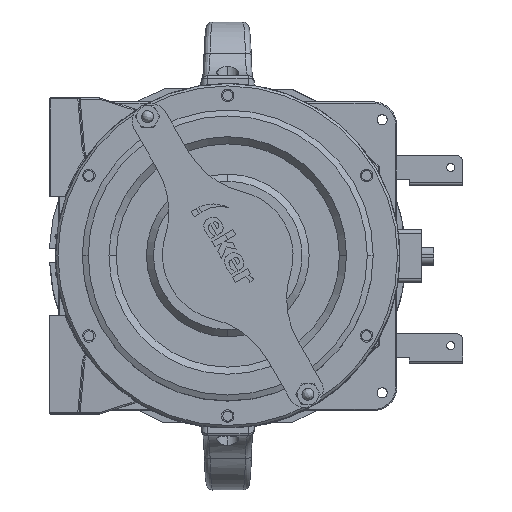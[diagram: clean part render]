
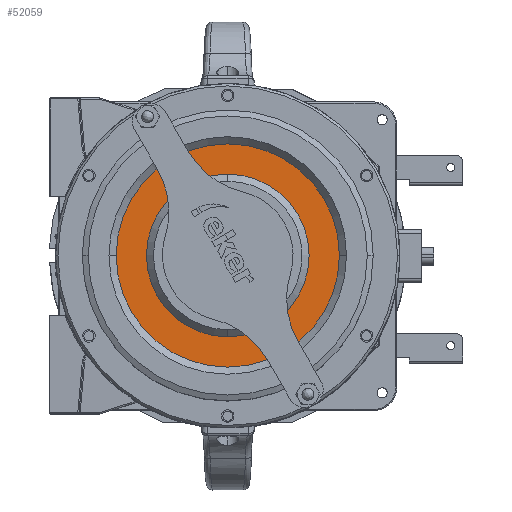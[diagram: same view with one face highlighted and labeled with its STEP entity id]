
A CAD part, top view. The second image highlights one B-rep face of the part: STEP entity #52059.
In plain terms, the highlighted planar face has unit normal (0, 0, 1).
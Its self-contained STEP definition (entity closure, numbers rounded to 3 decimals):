
#2695 = CARTESIAN_POINT ( 'NONE',  ( -50.22, -30.558, 244.5 ) ) ;
#7134 = CIRCLE ( 'NONE', #141521, 94. ) ;
#12548 = DIRECTION ( 'NONE',  ( 1., 0., 0. ) ) ;
#13853 = CIRCLE ( 'NONE', #53048, 94. ) ;
#15901 = EDGE_CURVE ( 'NONE', #98892, #54894, #114102, .T. ) ;
#18450 = CARTESIAN_POINT ( 'NONE',  ( 43.78, 37.942, 244.5 ) ) ;
#22544 = EDGE_CURVE ( 'NONE', #54894, #98892, #131746, .T. ) ;
#26794 = CARTESIAN_POINT ( 'NONE',  ( -50.22, 37.942, 244.5 ) ) ;
#26839 = DIRECTION ( 'NONE',  ( 0., 0., 1. ) ) ;
#30840 = EDGE_CURVE ( 'NONE', #110757, #86161, #13853, .T. ) ;
#33008 = DIRECTION ( 'NONE',  ( 0., 0., -1. ) ) ;
#48087 = AXIS2_PLACEMENT_3D ( 'NONE', #66772, #33008, #68287 ) ;
#49115 = FACE_BOUND ( 'NONE', #90554, .T. ) ;
#52059 = ADVANCED_FACE ( 'NONE', ( #49115, #95796 ), #82025, .T. ) ;
#52778 = ORIENTED_EDGE ( 'NONE', *, *, #15901, .T. ) ;
#53042 = EDGE_CURVE ( 'NONE', #86161, #110757, #7134, .T. ) ;
#53048 = AXIS2_PLACEMENT_3D ( 'NONE', #74371, #87364, #121052 ) ;
#54894 = VERTEX_POINT ( 'NONE', #148064 ) ;
#56289 = DIRECTION ( 'NONE',  ( 0., 0., 1. ) ) ;
#62037 = DIRECTION ( 'NONE',  ( 0., 0., -1. ) ) ;
#63295 = ORIENTED_EDGE ( 'NONE', *, *, #53042, .T. ) ;
#66772 = CARTESIAN_POINT ( 'NONE',  ( -50.22, 37.942, 244.5 ) ) ;
#68287 = DIRECTION ( 'NONE',  ( 0., 1., 0. ) ) ;
#74371 = CARTESIAN_POINT ( 'NONE',  ( -50.22, 37.942, 244.5 ) ) ;
#75063 = DIRECTION ( 'NONE',  ( 0., -1., 0. ) ) ;
#82025 = PLANE ( 'NONE',  #89990 ) ;
#86161 = VERTEX_POINT ( 'NONE', #147334 ) ;
#86503 = DIRECTION ( 'NONE',  ( 0., 1., 0. ) ) ;
#87309 = CARTESIAN_POINT ( 'NONE',  ( -50.22, 37.942, 244.5 ) ) ;
#87364 = DIRECTION ( 'NONE',  ( 0., 0., 1. ) ) ;
#89990 = AXIS2_PLACEMENT_3D ( 'NONE', #87309, #26839, #75063 ) ;
#90554 = EDGE_LOOP ( 'NONE', ( #119867, #52778 ) ) ;
#91491 = CARTESIAN_POINT ( 'NONE',  ( -50.22, 37.942, 244.5 ) ) ;
#95796 = FACE_OUTER_BOUND ( 'NONE', #127627, .T. ) ;
#98892 = VERTEX_POINT ( 'NONE', #2695 ) ;
#110757 = VERTEX_POINT ( 'NONE', #18450 ) ;
#114102 = CIRCLE ( 'NONE', #48087, 68.5 ) ;
#119867 = ORIENTED_EDGE ( 'NONE', *, *, #22544, .T. ) ;
#121052 = DIRECTION ( 'NONE',  ( 1., 0., 0. ) ) ;
#121282 = ORIENTED_EDGE ( 'NONE', *, *, #30840, .T. ) ;
#124454 = AXIS2_PLACEMENT_3D ( 'NONE', #26794, #62037, #86503 ) ;
#127627 = EDGE_LOOP ( 'NONE', ( #121282, #63295 ) ) ;
#131746 = CIRCLE ( 'NONE', #124454, 68.5 ) ;
#141521 = AXIS2_PLACEMENT_3D ( 'NONE', #91491, #56289, #12548 ) ;
#147334 = CARTESIAN_POINT ( 'NONE',  ( -144.22, 37.942, 244.5 ) ) ;
#148064 = CARTESIAN_POINT ( 'NONE',  ( -50.22, 106.442, 244.5 ) ) ;
